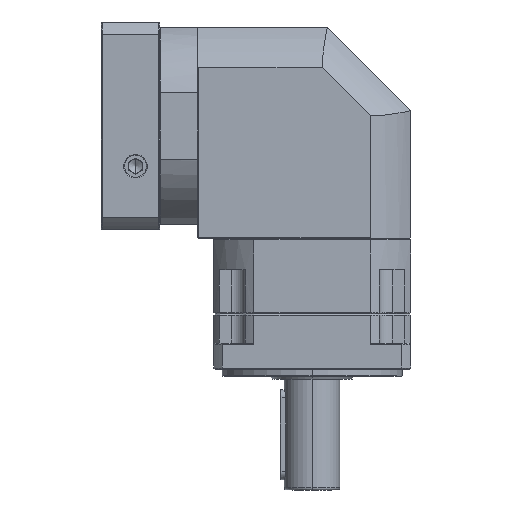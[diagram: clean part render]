
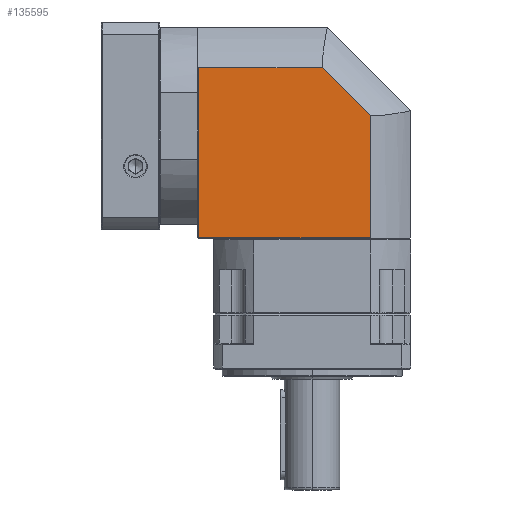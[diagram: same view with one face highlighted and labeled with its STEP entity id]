
A CAD part, left-side view. The second image highlights one B-rep face of the part: STEP entity #135595.
In plain terms, the highlighted planar face has unit normal (-1, 0, 0).
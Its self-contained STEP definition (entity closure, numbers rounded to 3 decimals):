
#2367 = VERTEX_POINT ( 'NONE', #31289 ) ;
#8391 = LINE ( 'NONE', #99963, #170952 ) ;
#9318 = VECTOR ( 'NONE', #170101, 1000. ) ;
#18924 = EDGE_CURVE ( 'NONE', #67233, #55067, #172184, .T. ) ;
#31289 = CARTESIAN_POINT ( 'NONE',  ( -243.735, -25.079, 246.408 ) ) ;
#36027 = EDGE_CURVE ( 'NONE', #58129, #67233, #36314, .T. ) ;
#36314 = LINE ( 'NONE', #87890, #46930 ) ;
#43098 = DIRECTION ( 'NONE',  ( -1., 0., 0. ) ) ;
#46930 = VECTOR ( 'NONE', #101656, 1000. ) ;
#48214 = CARTESIAN_POINT ( 'NONE',  ( -243.735, -25.079, 503.441 ) ) ;
#55067 = VERTEX_POINT ( 'NONE', #158236 ) ;
#58129 = VERTEX_POINT ( 'NONE', #118402 ) ;
#58594 = DIRECTION ( 'NONE',  ( 0., 0., -1. ) ) ;
#60966 = ORIENTED_EDGE ( 'NONE', *, *, #94823, .F. ) ;
#67233 = VERTEX_POINT ( 'NONE', #171291 ) ;
#71235 = PLANE ( 'NONE',  #130839 ) ;
#82793 = ORIENTED_EDGE ( 'NONE', *, *, #158176, .F. ) ;
#86094 = CARTESIAN_POINT ( 'NONE',  ( -243.735, 22.686, 233.965 ) ) ;
#87890 = CARTESIAN_POINT ( 'NONE',  ( -243.735, 98.936, 233.965 ) ) ;
#88878 = VECTOR ( 'NONE', #115748, 1000. ) ;
#89772 = ORIENTED_EDGE ( 'NONE', *, *, #36027, .F. ) ;
#91616 = DIRECTION ( 'NONE',  ( 0., 1., 0. ) ) ;
#94823 = EDGE_CURVE ( 'NONE', #2367, #130306, #122526, .T. ) ;
#99963 = CARTESIAN_POINT ( 'NONE',  ( -243.735, -143.809, 127.678 ) ) ;
#101656 = DIRECTION ( 'NONE',  ( 0., 0., 1. ) ) ;
#104069 = EDGE_LOOP ( 'NONE', ( #164079, #89772, #116960, #60966, #82793 ) ) ;
#107200 = CARTESIAN_POINT ( 'NONE',  ( -243.735, 22.686, 158.365 ) ) ;
#115748 = DIRECTION ( 'NONE',  ( 0., -1., 0. ) ) ;
#116934 = CARTESIAN_POINT ( 'NONE',  ( -243.735, -25.079, 158.365 ) ) ;
#116960 = ORIENTED_EDGE ( 'NONE', *, *, #162580, .F. ) ;
#118402 = CARTESIAN_POINT ( 'NONE',  ( -243.735, 98.936, 158.365 ) ) ;
#122526 = LINE ( 'NONE', #48214, #9318 ) ;
#123276 = VECTOR ( 'NONE', #91616, 1000. ) ;
#124537 = FACE_OUTER_BOUND ( 'NONE', #104069, .T. ) ;
#126286 = DIRECTION ( 'NONE',  ( 0., -0.707, -0.707 ) ) ;
#130306 = VERTEX_POINT ( 'NONE', #116934 ) ;
#130839 = AXIS2_PLACEMENT_3D ( 'NONE', #86094, #43098, #58594 ) ;
#135595 = ADVANCED_FACE ( 'NONE', ( #124537 ), #71235, .T. ) ;
#156247 = CARTESIAN_POINT ( 'NONE',  ( -243.735, -258.862, 281.08 ) ) ;
#158176 = EDGE_CURVE ( 'NONE', #55067, #2367, #8391, .T. ) ;
#158236 = CARTESIAN_POINT ( 'NONE',  ( -243.735, 9.593, 281.08 ) ) ;
#159551 = LINE ( 'NONE', #107200, #123276 ) ;
#162580 = EDGE_CURVE ( 'NONE', #130306, #58129, #159551, .T. ) ;
#164079 = ORIENTED_EDGE ( 'NONE', *, *, #18924, .F. ) ;
#170101 = DIRECTION ( 'NONE',  ( 0., 0., -1. ) ) ;
#170952 = VECTOR ( 'NONE', #126286, 1000. ) ;
#171291 = CARTESIAN_POINT ( 'NONE',  ( -243.735, 98.936, 281.08 ) ) ;
#172184 = LINE ( 'NONE', #156247, #88878 ) ;
